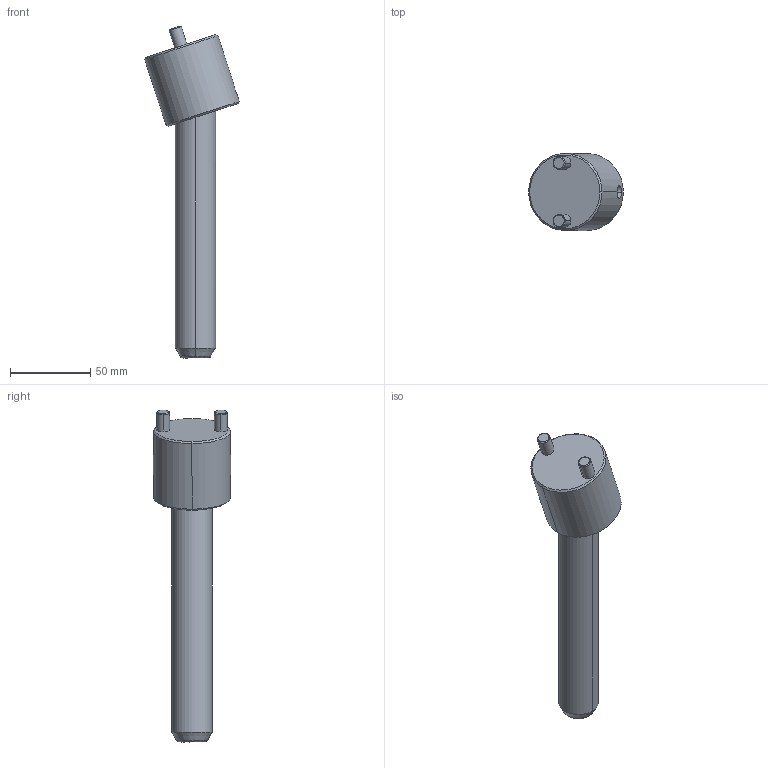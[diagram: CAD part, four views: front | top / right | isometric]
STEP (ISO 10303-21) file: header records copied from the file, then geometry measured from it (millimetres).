
FILE_DESCRIPTION (( 'STEP AP203' ), '1' );
FILE_NAME ('CI1825150.STEP', '2023-12-07T22:53:03', ( '' ), ( '' ), 'SwSTEP 2.0', 'SolidWorks 2017', '' );
FILE_SCHEMA (( 'CONFIG_CONTROL_DESIGN' ));
Length unit declared in the file: millimetre
Products named in the file (3): CP25150; CI1825150; CS1825
Assembly tree (2 placements, depth 2):
  CI1825150
    CP25150
    CS1825
Bounding box: 58.94 x 48 x 206.84 mm (x, y, z)
Volume: 154247 mm3; surface area: 29562.3 mm2
Topology: 2 solids, 2 shells, 37 faces, 80 edges, 47 vertices
Faces by surface type: cylinder 14, cone 14, plane 7, bspline 2
Entity records: 1505 total; most frequent: CARTESIAN_POINT 413, DIRECTION 182, ORIENTED_EDGE 156, EDGE_CURVE 78, AXIS2_PLACEMENT_3D 76, VERTEX_POINT 47, EDGE_LOOP 41, ADVANCED_FACE 37
